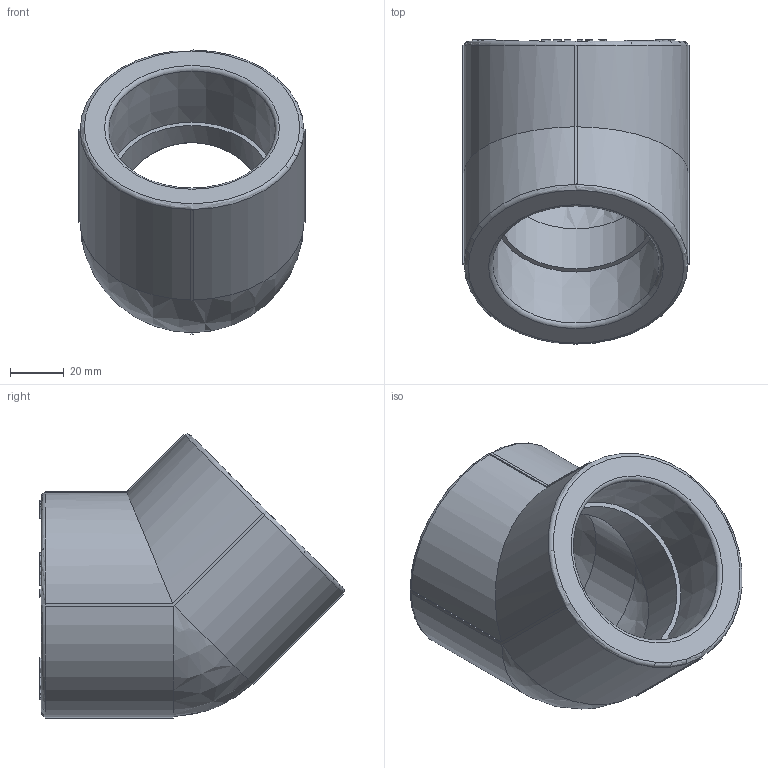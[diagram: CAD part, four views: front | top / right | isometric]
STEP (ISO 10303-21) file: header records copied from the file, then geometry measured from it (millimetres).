
FILE_DESCRIPTION(('STEP AP203'), '1');
FILE_NAME('ÂÐ.752216.014 - VTp.759.0.063', '', ('UNSPECIFIED'), ('UNSPECIFIED'), 'C3D Converter', 'C3D Toolkit', '');
FILE_SCHEMA(('CONFIG_CONTROL_DESIGN'));
Length unit declared in the file: millimetre
Products named in the file (1): ВР.752216.014
Bounding box: 84 x 112.87 x 105.37 mm (x, y, z)
Volume: 250536.8 mm3; surface area: 49237.1 mm2
Topology: 1 solids, 1 shells, 594 faces, 1656 edges, 1094 vertices
Faces by surface type: extrusion 329, plane 247, cylinder 10, torus 4, cone 2, sphere 2
Full cylindrical faces by diameter (mm): 58 x2
Entity records: 19292 total; most frequent: CARTESIAN_POINT 5318, ORIENTED_EDGE 3292, DIRECTION 1886, EDGE_CURVE 1646, VECTOR 1274, VERTEX_POINT 1094, B_SPLINE_CURVE_WITH_KNOTS 987, LINE 945
